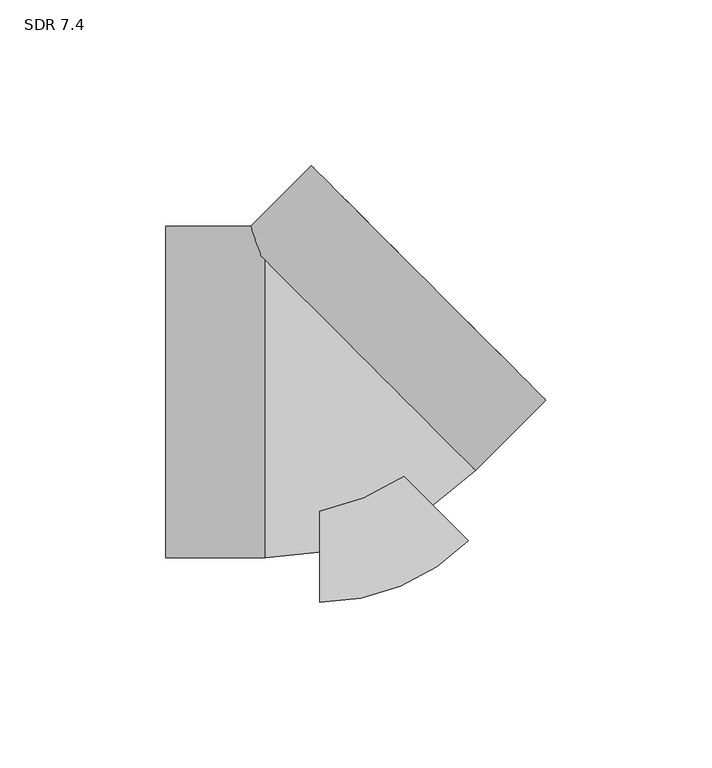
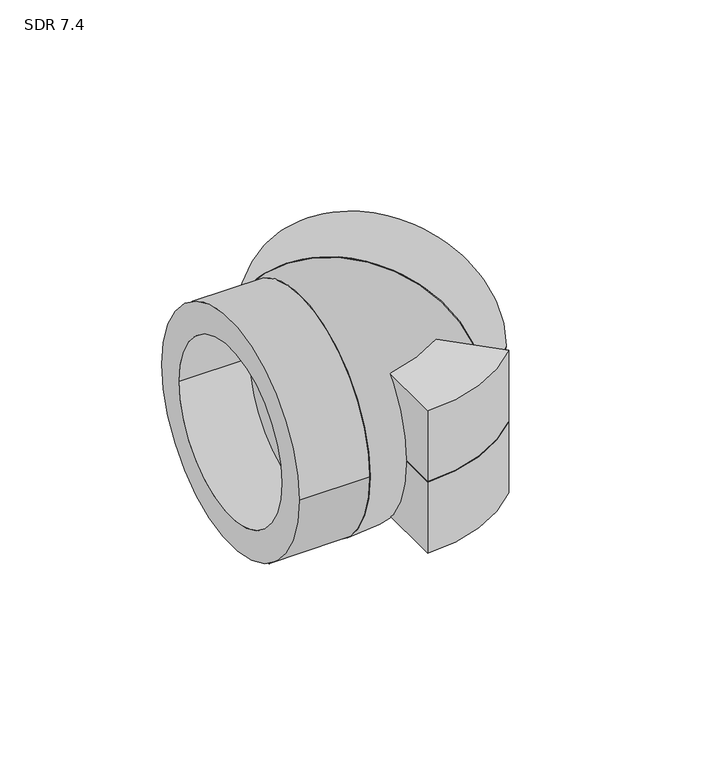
"""IFC4 building model written with IfcOpenShell, lengths in millimetres: pipe fitting geometry, Aquatherm - Elbow Socket : SDR 7.4."""

from ifc_helpers import new_model, si_unit, point, frame, origin, origin_with_axes, origin_2d, place, context, project, spatial, polyline, circle_curve, ellipse_curve, trimmed, segment, composite_curve, outline, extrude, source, transform, mapped, element, save
from ifc_brep_helpers import plane_surface, revolved_surface, advanced_brep


def sdr_7_4_f01de0a7(model_context):
    return source(origin(), model_context, "Body", "SolidModel", [
        extrude(outline(composite_curve([segment(polyline([(0.0, -63.5), (0.0, 0.0), (44.9012806, -44.9012806)]), True, "CONTINUOUS"), segment(trimmed(circle_curve(origin_2d(), 63.5), [point((44.9012806, -44.9012806))], [point((0.0, -63.5))], False, "CARTESIAN"), True, "CONTINUOUS")], self_intersect=False)), frame((0.0, 0.0, -31.75), z_axis=(0.0, 0.0, 1.0), x_axis=(1.0, 0.0, 0.0)), (0.0, 0.0, 1.0), 31.75),
        extrude(outline(composite_curve([segment(trimmed(circle_curve(origin_2d(), 63.5), [point((44.9012806, -44.9012806))], [point((0.0, -63.5))], False, "CARTESIAN"), True, "CONTINUOUS"), segment(polyline([(0.0, -63.5), (0.0, 0.0), (44.9012806, -44.9012806)]), True, "CONTINUOUS")], self_intersect=False)), origin_with_axes(), (0.0, 0.0, 1.0), 31.75),
        extrude(outline(composite_curve([segment(trimmed(circle_curve(origin_2d(), 50.038), [point((0.0, 50.038))], [point((0.0, -50.038))], False, "CARTESIAN"), True, "CONTINUOUS"), segment(trimmed(circle_curve(origin_2d(), 50.038), [point((0.0, -50.038))], [point((0.0, 50.038))], False, "CARTESIAN"), True, "CONTINUOUS")], self_intersect=False), holes=[composite_curve([segment(trimmed(circle_curve(origin_2d(), 37.465), [point((0.0, 37.465))], [point((0.0, -37.465))], True, "CARTESIAN"), True, "CONTINUOUS"), segment(trimmed(circle_curve(origin_2d(), 37.465), [point((0.0, -37.465))], [point((0.0, 37.465))], True, "CARTESIAN"), True, "CONTINUOUS")], self_intersect=False)]), frame((11.674333, 11.674333, 0.0), z_axis=(0.7071067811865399, 0.7071067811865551, 0.0), x_axis=(0.0, 0.0, 1.0)), (0.0, 0.0, 1.0), 29.972),
        advanced_brep(
        [(-16.51, 39.8586659, -30.2504247), (-16.51, 39.8586659, 30.2504247), (-16.51, -27.0580556, 0.0), (-16.51, 27.0580556, 0.0), (30.8072675, -7.4586016, 0.0), (-7.4586016, 30.8072675, 0.0)],
        [
            (0, 1, circle_curve(frame((-16.51, 0.0, 0.0), z_axis=(-1.0, 0.0, 0.0), x_axis=(0.0, 1.0, 0.0)), 50.038)),
            (1, 0),
            (2, 3, circle_curve(frame((-16.51, 0.0, 0.0), z_axis=(1.0, 0.0, 0.0), x_axis=(0.0, 1.0, 0.0)), 27.0580556)),
            (3, 2, circle_curve(frame((-16.51, 0.0, 0.0), z_axis=(1.0, 0.0, 0.0), x_axis=(0.0, 1.0, 0.0)), 27.0580556)),
            (1, 0, circle_curve(frame((11.674333, 11.674333, 0.0), z_axis=(0.7071067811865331, 0.7071067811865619, 0.0), x_axis=(-0.7071067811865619, 0.7071067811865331, 0.0)), 50.038)),
            (4, 5, circle_curve(frame((11.674333, 11.674333, 0.0), z_axis=(-0.7071067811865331, -0.7071067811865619, 0.0), x_axis=(-0.7071067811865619, 0.7071067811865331, 0.0)), 27.0580556)),
            (5, 4, circle_curve(frame((11.674333, 11.674333, 0.0), z_axis=(-0.7071067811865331, -0.7071067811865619, 0.0), x_axis=(-0.7071067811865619, 0.7071067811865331, 0.0)), 27.0580556)),
            (5, 3, circle_curve(frame((-16.51, 39.8586659, 0.0), z_axis=(0.0, 0.0, -1.0), x_axis=(0.0, -1.0, 0.0)), 12.8006104)),
            (2, 4, circle_curve(frame((-16.51, 39.8586659, 0.0), z_axis=(0.0, 0.0, 1.0), x_axis=(0.0, -1.0, 0.0)), 66.9167215)),
        ],
        [
            plane_surface(frame((-16.51, 39.8586659, 87.4004247), z_axis=(-1.0, 0.0, 0.0), x_axis=(0.0, -1.0, 0.0))),
            plane_surface(frame((-16.51, 39.8586659, 87.4004247), z_axis=(0.7071067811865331, 0.7071067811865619, 0.0), x_axis=(0.7071067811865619, -0.7071067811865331, 0.0))),
            revolved_surface(trimmed(ellipse_curve(frame((-16.51, 0.0, 0.0), z_axis=(1.0, 0.0, 0.0), x_axis=(0.0, 1.0, 0.0)), 50.038, 50.038), [point((-16.51, 39.8586659, 30.2504247))], [point((-16.51, 39.8586659, -30.2504247))], True, "CARTESIAN"), (-16.51, 39.8586659, 87.4004247), (0.0, 0.0, -1.0)),
            revolved_surface(trimmed(ellipse_curve(frame((-16.51, 0.0, 0.0), z_axis=(-1.0, 0.0, 0.0), x_axis=(0.0, 1.0, 0.0)), 27.0580556, 27.0580556), [point((-16.51, 27.0580556, 0.0))], [point((-16.51, -27.0580556, 0.0))], True, "CARTESIAN"), (-16.51, 39.8586659, 87.4004247), (0.0, 0.0, -1.0)),
            revolved_surface(trimmed(ellipse_curve(frame((-16.51, 0.0, 0.0), z_axis=(-1.0, 0.0, 0.0), x_axis=(0.0, 1.0, 0.0)), 27.0580556, 27.0580556), [point((-16.51, -27.0580556, 0.0))], [point((-16.51, 27.0580556, 0.0))], True, "CARTESIAN"), (-16.51, 39.8586659, 87.4004247), (0.0, 0.0, -1.0)),
        ],
        [
            (0, [[1, 2], [3, 4]]),
            (1, [[5, -2], [6, 7]]),
            (2, [[-1, -5]]),
            (3, [[8, -3, 9, -7]]),
            (4, [[-9, -4, -8, -6]]),
        ],
    ),
        extrude(outline(composite_curve([segment(trimmed(circle_curve(origin_2d(), 50.038), [point((50.038, 0.0))], [point((-50.038, 0.0))], False, "CARTESIAN"), True, "CONTINUOUS"), segment(trimmed(circle_curve(origin_2d(), 50.038), [point((-50.038, 0.0))], [point((50.038, 0.0))], False, "CARTESIAN"), True, "CONTINUOUS")], self_intersect=False), holes=[composite_curve([segment(trimmed(circle_curve(origin_2d(), 37.465), [point((37.465, 0.0))], [point((-37.465, 0.0))], True, "CARTESIAN"), True, "CONTINUOUS"), segment(trimmed(circle_curve(origin_2d(), 37.465), [point((-37.465, 0.0))], [point((37.465, 0.0))], True, "CARTESIAN"), True, "CONTINUOUS")], self_intersect=False)]), frame((-46.482, 0.0, 0.0), z_axis=(1.0, 0.0, 0.0), x_axis=(0.0, 1.0, 0.0)), (0.0, 0.0, 1.0), 29.972),
    ])


if __name__ == "__main__":
    model = new_model("IFC4")
    model_context = context("Model", 3, world=origin())
    ifc_project = project(units=[si_unit("LENGTHUNIT", "METRE", prefix="MILLI")], contexts=[model_context])
    site = spatial("IfcSite", under=ifc_project)
    building = spatial("IfcBuilding", under=site)
    placement = place(None, origin())
    sdr_7_4_shape = sdr_7_4_f01de0a7(model_context)
    element("IfcPipeFitting", 1, ObjectType="Aquatherm - Elbow Socket : SDR 7.4", at=placement, inside=building, context=model_context, shape_type="MappedRepresentation", body=[
        mapped(sdr_7_4_shape, transform((0.0, 0.0, 0.0), x_axis=(1.0, 0.0, 0.0), y_axis=(0.0, 1.0, 0.0), z_axis=(0.0, 0.0, 1.0))),
    ])
    save(model, "model.ifc")
